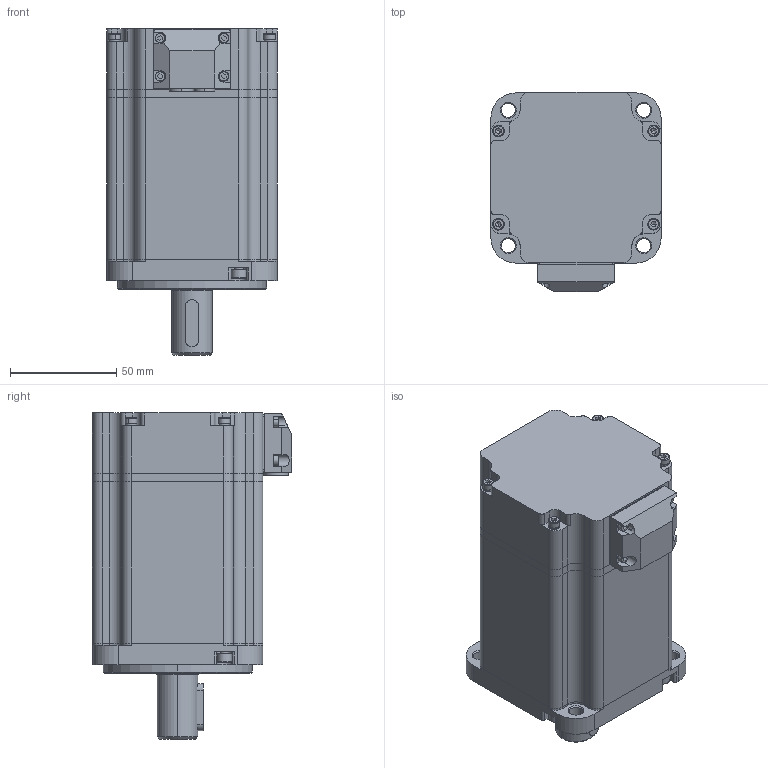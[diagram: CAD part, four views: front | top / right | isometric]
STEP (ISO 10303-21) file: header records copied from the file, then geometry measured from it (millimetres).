
FILE_DESCRIPTION (( 'STEP AP203' ), '1' );
FILE_NAME ('SMH080-07530D10E0NL.STEP', '2020-12-01T05:22:23', ( 'PC' ), ( 'Microsoft' ), 'SwSTEP 2.0', 'SolidWorks 2018', '' );
FILE_SCHEMA (( 'CONFIG_CONTROL_DESIGN' ));
Length unit declared in the file: millimetre
Products named in the file (25): 10105010005-内六角圆柱头螺钉-GB70-85 M2.5×10(发黑); 80棠詩; 蛌赽軞傖; 10105030019-弹簧垫圈-GB93-87 3MM; 儂褲; 80蚾饜; 瑩; SMH080-07530D10E0NL; hexagon socket head cap screws gb_GB_FASTENER_SCREWS_HSHCS M4X16-N; 二代不带刹车后端盖; 轴承垫圈; 隅赽軞傖; GB／T70．1-2000[内六角圆柱头螺钉M3×16]; circlips for holes--type a gb_GB_CONNECTING_PIECE_RING_RRH 42; 蛌粣; 1.1.11.KMP80-0033 鎢攫欶; 嘎殤蚐猾; 蛌赽郪璃; 竘盄菜2 (1); ヶ傷裔; 竘盄碟5; ヶ傷裔И璃; 10105010025-内六角圆柱头螺钉-GB70-85 M3X35(发黑); 80隅赽沺郋; deep groove ball bearings gb_Rolling bearings 6004 GB 276-94
Assembly tree (50 placements, depth 4):
  SMH080-07530D10E0NL
    隅赽軞傖
      儂褲
      hexagon socket head cap screws gb_GB_FASTENER_SCREWS_HSHCS M4X16-N  x4
    蛌赽軞傖
      蛌赽郪璃
        蛌粣
      deep groove ball bearings gb_Rolling bearings 6004 GB 276-94
    瑩
    轴承垫圈
    circlips for holes--type a gb_GB_CONNECTING_PIECE_RING_RRH 42
    嘎殤蚐猾
    ヶ傷裔
    ヶ傷裔И璃
    80蚾饜
      80隅赽沺郋  x12
      80棠詩
    二代不带刹车后端盖
    GB／T70．1-2000[内六角圆柱头螺钉M3×16]  x4
    1.1.11.KMP80-0033 鎢攫欶
    竘盄菜2 (1)
    竘盄碟5
    10105010025-内六角圆柱头螺钉-GB70-85 M3X35(发黑)  x4
    10105010005-内六角圆柱头螺钉-GB70-85 M2.5×10(发黑)  x4
    10105030019-弹簧垫圈-GB93-87 3MM  x4
Bounding box: 80 x 93.5 x 153.2 mm (x, y, z)
Volume: 352927.3 mm3; surface area: 200878.2 mm2
Topology: 46 solids, 46 shells, 1776 faces, 4829 edges, 3123 vertices
Faces by surface type: cylinder 761, plane 737, torus 125, cone 119, sphere 32, bspline 2
Entity records: 40379 total; most frequent: CARTESIAN_POINT 8089, DIRECTION 6404, ORIENTED_EDGE 5970, EDGE_CURVE 2985, AXIS2_PLACEMENT_3D 2540, VERTEX_POINT 1953, CIRCLE 1383, VECTOR 1324
